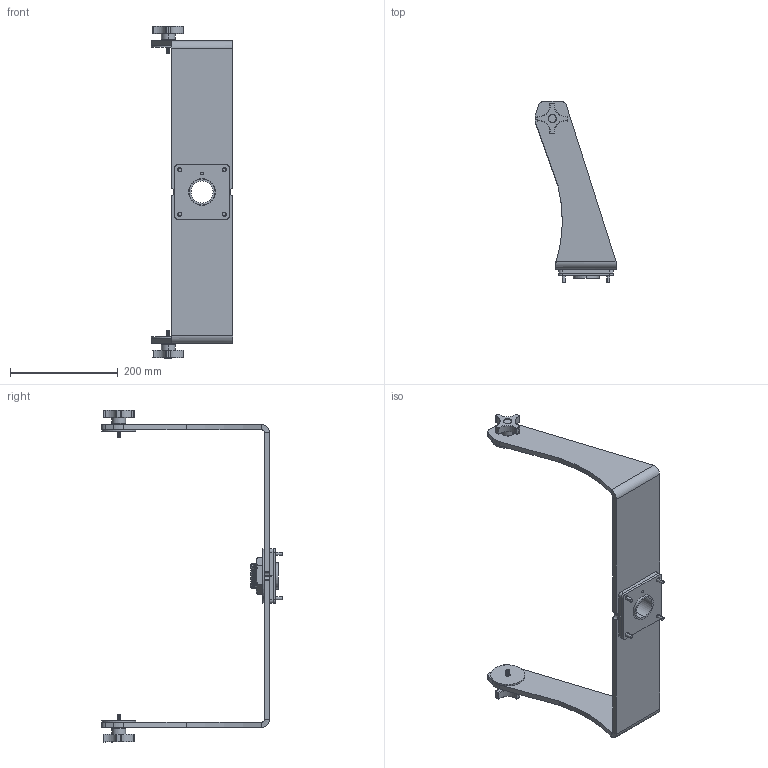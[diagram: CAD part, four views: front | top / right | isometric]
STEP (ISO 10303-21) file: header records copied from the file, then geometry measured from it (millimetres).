
FILE_DESCRIPTION (( 'STEP AP214' ), '1' );
FILE_NAME ('Pedestal and Benchtop Yoke for 19.5 inch Universal Mount Monitor, YB19.5-2.STEP', '2022-06-22T18:01:08', ( '' ), ( '' ), 'SwSTEP 2.0', 'SolidWorks 2020', '' );
FILE_SCHEMA (( 'AUTOMOTIVE_DESIGN' ));
Length unit declared in the file: inch
Products named in the file (12): Bench Plate, 10105; Rubber Washer, 10177; All Yoke Configurations, YBxx_YK19.5-2; Washer, 10143; Plate; Bushing, 30500; 9157K370_STD-WALL 304-304L SS THRD ONE END PIPE NIPPLE_9157K37; Screw, 30078_CR-FHMS 0.25-20x0.875x0.875-N; Nut, 30060; Pedestal and Benchtop Yoke for 19.5 inch Universal Mount Monitor, YB19.5-2; Bearing Plate, 10078; Knob, 30053
Assembly tree (17 placements, depth 3):
  Pedestal and Benchtop Yoke for 19.5 inch Universal Mount Monitor, YB19.5-2
    All Yoke Configurations, YBxx_YK19.5-2
    Bearing Plate, 10078
    Bench Plate, 10105
      Plate
      9157K370_STD-WALL 304-304L SS THRD ONE END PIPE NIPPLE_9157K37
    Screw, 30078_CR-FHMS 0.25-20x0.875x0.875-N  x4
    Washer, 10143
    Nut, 30060
    Bushing, 30500  x2
    Rubber Washer, 10177  x2
    Knob, 30053  x2
Bounding box: 151.52 x 335.33 x 615.98 mm (x, y, z)
Volume: 1204085.2 mm3; surface area: 342876.8 mm2
Topology: 16 solids, 16 shells, 808 faces, 1799 edges, 1020 vertices
Faces by surface type: cylinder 344, cone 239, plane 128, torus 48, sphere 40, bspline 9
Entity records: 24011 total; most frequent: CARTESIAN_POINT 12632, DIRECTION 2319, ORIENTED_EDGE 2230, EDGE_CURVE 1115, AXIS2_PLACEMENT_3D 932, VERTEX_POINT 653, EDGE_LOOP 532, FACE_OUTER_BOUND 488
